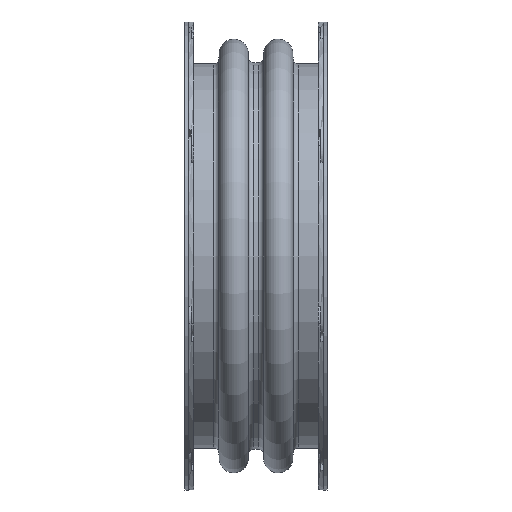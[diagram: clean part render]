
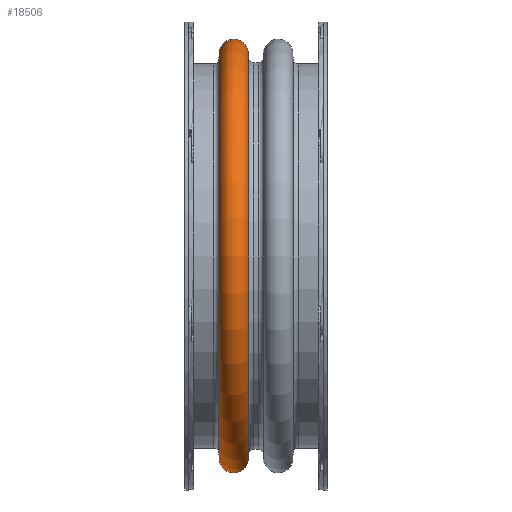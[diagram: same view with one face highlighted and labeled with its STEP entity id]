
A CAD part, front view. The second image highlights one B-rep face of the part: STEP entity #18506.
In plain terms, the highlighted toroidal (fillet/blend) face has major radius 504.825 mm and minor radius 36.513 mm.
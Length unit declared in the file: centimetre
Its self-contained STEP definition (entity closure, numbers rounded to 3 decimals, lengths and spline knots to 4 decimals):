
#313=FACE_BOUND('',#3182,.T.);
#1351=TOROIDAL_SURFACE('',#20388,50.4825,3.6513);
#1901=FACE_OUTER_BOUND('',#3181,.T.);
#3181=EDGE_LOOP('',(#14237));
#3182=EDGE_LOOP('',(#14238));
#6523=CIRCLE('',#20387,50.6035);
#6524=CIRCLE('',#20389,50.6035);
#8219=VERTEX_POINT('',#30936);
#8220=VERTEX_POINT('',#30939);
#10395=EDGE_CURVE('',#8219,#8219,#6523,.T.);
#10396=EDGE_CURVE('',#8220,#8220,#6524,.T.);
#14237=ORIENTED_EDGE('',*,*,#10396,.F.);
#14238=ORIENTED_EDGE('',*,*,#10395,.T.);
#18506=ADVANCED_FACE('',(#1901,#313),#1351,.T.);
#20387=AXIS2_PLACEMENT_3D('',#30937,#24849,#24850);
#20388=AXIS2_PLACEMENT_3D('',#30938,#24851,#24852);
#20389=AXIS2_PLACEMENT_3D('',#30940,#24853,#24854);
#24849=DIRECTION('center_axis',(1.,0.,0.));
#24850=DIRECTION('ref_axis',(0.,0.,-1.));
#24851=DIRECTION('center_axis',(1.,0.,0.));
#24852=DIRECTION('ref_axis',(0.,0.,-1.));
#24853=DIRECTION('center_axis',(1.,0.,0.));
#24854=DIRECTION('ref_axis',(0.,0.,-1.));
#30936=CARTESIAN_POINT('',(-9.2055,50.6035,0.));
#30937=CARTESIAN_POINT('Origin',(-9.2055,0.,
0.));
#30938=CARTESIAN_POINT('Origin',(-5.5563,0.,0.));
#30939=CARTESIAN_POINT('',(-1.907,50.6035,0.));
#30940=CARTESIAN_POINT('Origin',(-1.907,0.,
0.));
